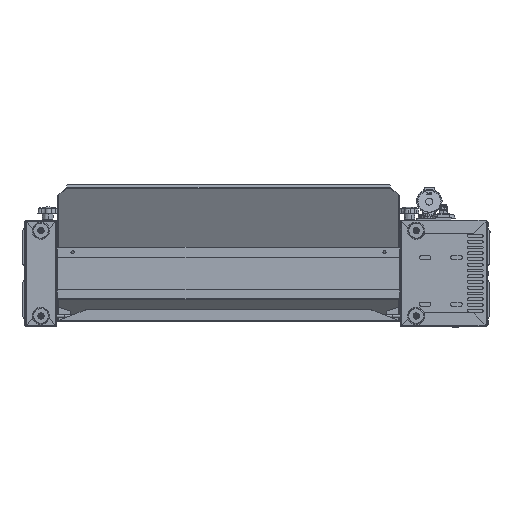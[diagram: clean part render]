
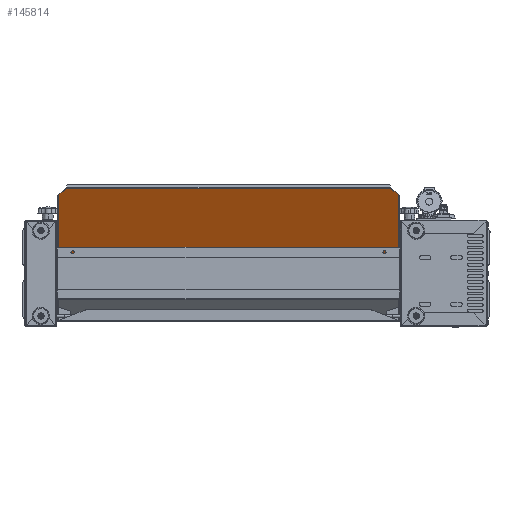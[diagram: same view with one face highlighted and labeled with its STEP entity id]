
A CAD part, front view. The second image highlights one B-rep face of the part: STEP entity #145814.
In plain terms, the highlighted planar face has unit normal (0, -0.874, -0.485).
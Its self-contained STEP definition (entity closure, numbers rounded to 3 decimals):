
#2426 = DIRECTION ( 'NONE',  ( -1., 0., 0. ) ) ;
#12476 = LINE ( 'NONE', #241571, #105655 ) ;
#13755 = DIRECTION ( 'NONE',  ( 0., 0.874, 0.485 ) ) ;
#14234 = ORIENTED_EDGE ( 'NONE', *, *, #117642, .T. ) ;
#14983 = PLANE ( 'NONE',  #204803 ) ;
#18385 = EDGE_CURVE ( 'NONE', #155847, #228603, #112115, .T. ) ;
#19034 = EDGE_CURVE ( 'NONE', #89515, #54663, #12476, .T. ) ;
#21403 = CARTESIAN_POINT ( 'NONE',  ( 2.5, -287.285, 148.732 ) ) ;
#22982 = ORIENTED_EDGE ( 'NONE', *, *, #106720, .F. ) ;
#27147 = DIRECTION ( 'NONE',  ( 1., 0., 0. ) ) ;
#33792 = EDGE_LOOP ( 'NONE', ( #214433, #49868, #232338, #14234, #196085, #68219, #22982, #202713 ) ) ;
#36479 = CARTESIAN_POINT ( 'NONE',  ( 653.9, -178.743, -46.873 ) ) ;
#41322 = CARTESIAN_POINT ( 'NONE',  ( 2.5, -287.285, 148.732 ) ) ;
#48268 = VECTOR ( 'NONE', #27147, 1000. ) ;
#49868 = ORIENTED_EDGE ( 'NONE', *, *, #19034, .T. ) ;
#49919 = CARTESIAN_POINT ( 'NONE',  ( 2.5, -178.743, -46.873 ) ) ;
#51109 = CARTESIAN_POINT ( 'NONE',  ( 18.4, -295., 162.635 ) ) ;
#54663 = VERTEX_POINT ( 'NONE', #210203 ) ;
#57516 = CARTESIAN_POINT ( 'NONE',  ( 3.6, -287.285, 148.732 ) ) ;
#58199 = VECTOR ( 'NONE', #215848, 1000. ) ;
#66389 = CARTESIAN_POINT ( 'NONE',  ( 2.5, -295., 162.635 ) ) ;
#68219 = ORIENTED_EDGE ( 'NONE', *, *, #190433, .T. ) ;
#85482 = VECTOR ( 'NONE', #105565, 1000. ) ;
#88078 = VERTEX_POINT ( 'NONE', #109691 ) ;
#89515 = VERTEX_POINT ( 'NONE', #57516 ) ;
#89717 = DIRECTION ( 'NONE',  ( 0., 0.485, -0.874 ) ) ;
#91009 = CARTESIAN_POINT ( 'NONE',  ( 2.5, -287.285, 148.732 ) ) ;
#92252 = CARTESIAN_POINT ( 'NONE',  ( 2.5, -178.696, -46.958 ) ) ;
#95647 = DIRECTION ( 'NONE',  ( 0.707, -0.343, 0.618 ) ) ;
#105565 = DIRECTION ( 'NONE',  ( 1., 0., 0. ) ) ;
#105655 = VECTOR ( 'NONE', #89717, 1000. ) ;
#106720 = EDGE_CURVE ( 'NONE', #228603, #88078, #144734, .T. ) ;
#109691 = CARTESIAN_POINT ( 'NONE',  ( 639.1, -295., 162.635 ) ) ;
#110342 = VERTEX_POINT ( 'NONE', #155809 ) ;
#111685 = EDGE_CURVE ( 'NONE', #89515, #155847, #177043, .T. ) ;
#112115 = LINE ( 'NONE', #208155, #145695 ) ;
#117642 = EDGE_CURVE ( 'NONE', #128910, #110342, #206936, .T. ) ;
#128910 = VERTEX_POINT ( 'NONE', #36479 ) ;
#133894 = VECTOR ( 'NONE', #242461, 1000. ) ;
#137436 = LINE ( 'NONE', #41322, #58199 ) ;
#142317 = LINE ( 'NONE', #49919, #48268 ) ;
#144734 = LINE ( 'NONE', #66389, #85482 ) ;
#145695 = VECTOR ( 'NONE', #95647, 1000. ) ;
#145814 = ADVANCED_FACE ( 'NONE', ( #189645 ), #14983, .F. ) ;
#155809 = CARTESIAN_POINT ( 'NONE',  ( 653.9, -287.285, 148.732 ) ) ;
#155847 = VERTEX_POINT ( 'NONE', #91009 ) ;
#158749 = CARTESIAN_POINT ( 'NONE',  ( 440.65, -391.29, 336.159 ) ) ;
#177043 = LINE ( 'NONE', #21403, #191974 ) ;
#189645 = FACE_OUTER_BOUND ( 'NONE', #33792, .T. ) ;
#190433 = EDGE_CURVE ( 'NONE', #230888, #88078, #196653, .T. ) ;
#191974 = VECTOR ( 'NONE', #2426, 1000. ) ;
#196085 = ORIENTED_EDGE ( 'NONE', *, *, #212185, .F. ) ;
#196653 = LINE ( 'NONE', #158749, #245650 ) ;
#202713 = ORIENTED_EDGE ( 'NONE', *, *, #18385, .F. ) ;
#204803 = AXIS2_PLACEMENT_3D ( 'NONE', #92252, #13755, #209766 ) ;
#206936 = LINE ( 'NONE', #246215, #133894 ) ;
#208155 = CARTESIAN_POINT ( 'NONE',  ( 2.5, -287.285, 148.732 ) ) ;
#209766 = DIRECTION ( 'NONE',  ( 1., 0., 0. ) ) ;
#210203 = CARTESIAN_POINT ( 'NONE',  ( 3.6, -178.743, -46.873 ) ) ;
#212185 = EDGE_CURVE ( 'NONE', #230888, #110342, #137436, .T. ) ;
#214433 = ORIENTED_EDGE ( 'NONE', *, *, #111685, .F. ) ;
#215848 = DIRECTION ( 'NONE',  ( -1., 0., 0. ) ) ;
#217912 = CARTESIAN_POINT ( 'NONE',  ( 655., -287.285, 148.732 ) ) ;
#226423 = EDGE_CURVE ( 'NONE', #54663, #128910, #142317, .T. ) ;
#228603 = VERTEX_POINT ( 'NONE', #51109 ) ;
#230888 = VERTEX_POINT ( 'NONE', #217912 ) ;
#232338 = ORIENTED_EDGE ( 'NONE', *, *, #226423, .T. ) ;
#235882 = DIRECTION ( 'NONE',  ( -0.707, -0.343, 0.618 ) ) ;
#241571 = CARTESIAN_POINT ( 'NONE',  ( 3.6, -287.285, 148.732 ) ) ;
#242461 = DIRECTION ( 'NONE',  ( 0., -0.485, 0.874 ) ) ;
#245650 = VECTOR ( 'NONE', #235882, 1000. ) ;
#246215 = CARTESIAN_POINT ( 'NONE',  ( 653.9, -178.743, -46.873 ) ) ;
